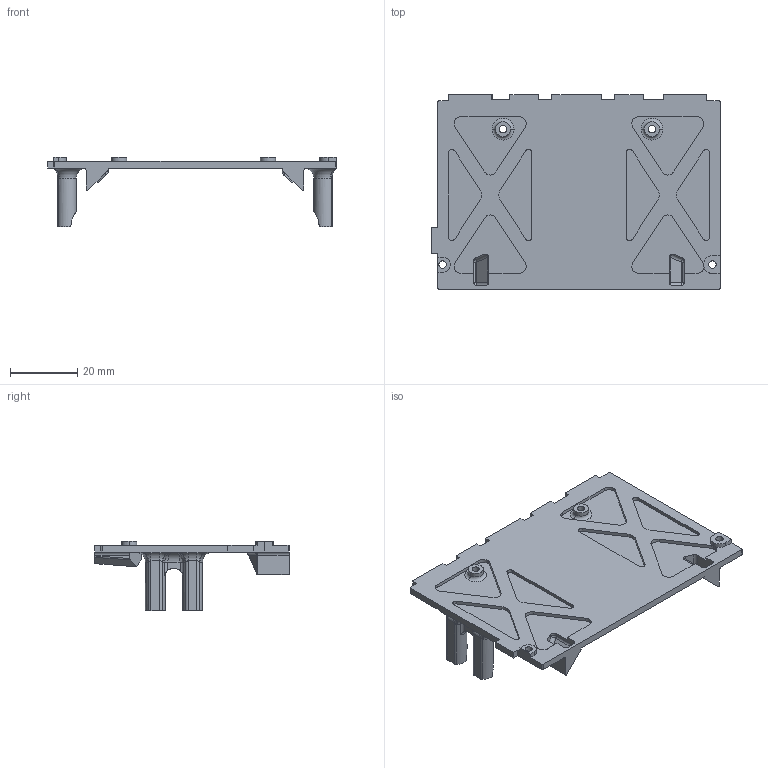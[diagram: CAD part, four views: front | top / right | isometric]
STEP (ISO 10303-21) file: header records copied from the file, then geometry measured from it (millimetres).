
FILE_DESCRIPTION (( 'STEP AP203' ), '1' );
FILE_NAME ('Edge2_Back_RevD.STEP', '2023-04-01T09:53:58', ( '' ), ( '' ), 'SwSTEP 2.0', 'SolidWorks 2021', '' );
FILE_SCHEMA (( 'CONFIG_CONTROL_DESIGN' ));
Length unit declared in the file: millimetre
Products named in the file (1): Edge2_Back_RevD
Bounding box: 85.7 x 57.7 x 20.76 mm (x, y, z)
Volume: 10543.8 mm3; surface area: 13322.5 mm2
Topology: 1 solids, 1 shells, 326 faces, 854 edges, 527 vertices
Faces by surface type: cylinder 137, plane 125, bspline 40, torus 18, sphere 6
Entity records: 11347 total; most frequent: CARTESIAN_POINT 3624, ORIENTED_EDGE 1664, DIRECTION 1540, EDGE_CURVE 832, AXIS2_PLACEMENT_3D 553, VERTEX_POINT 525, LINE 434, VECTOR 434
